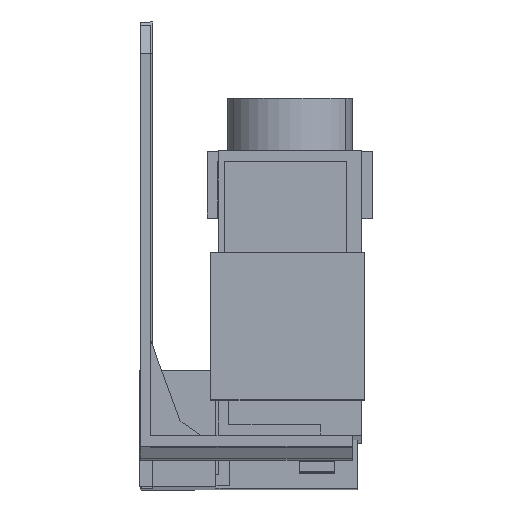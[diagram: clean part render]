
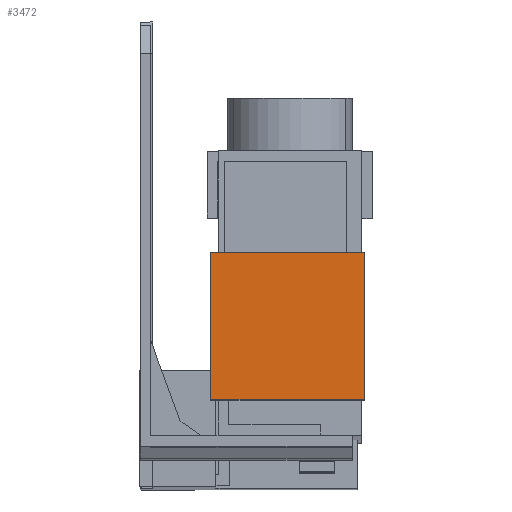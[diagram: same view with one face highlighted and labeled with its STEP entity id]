
A CAD part, front view. The second image highlights one B-rep face of the part: STEP entity #3472.
In plain terms, the highlighted planar face has unit normal (0, -1, 0.003).
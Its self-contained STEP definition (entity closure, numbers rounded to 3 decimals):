
#96 = CARTESIAN_POINT ( 'NONE',  ( 31.95, -31.509, -40.315 ) ) ;
#302 = CARTESIAN_POINT ( 'NONE',  ( 31.95, -31.452, -19.316 ) ) ;
#311 = CARTESIAN_POINT ( 'NONE',  ( 10.05, -31.509, -40.315 ) ) ;
#596 = CARTESIAN_POINT ( 'NONE',  ( 10.05, -31.509, -40.315 ) ) ;
#597 = DIRECTION ( 'NONE',  ( 0., 0.003, 1. ) ) ;
#685 = CARTESIAN_POINT ( 'NONE',  ( 10.05, -31.452, -19.316 ) ) ;
#1297 = ORIENTED_EDGE ( 'NONE', *, *, #8344, .F. ) ;
#1299 = ORIENTED_EDGE ( 'NONE', *, *, #8143, .T. ) ;
#1301 = ORIENTED_EDGE ( 'NONE', *, *, #2641, .F. ) ;
#1303 = ORIENTED_EDGE ( 'NONE', *, *, #8124, .F. ) ;
#1571 = EDGE_LOOP ( 'NONE', ( #1303, #1301, #1299, #1297 ) ) ;
#2499 = AXIS2_PLACEMENT_3D ( 'NONE', #6429, #6435, #6436 ) ;
#2641 = EDGE_CURVE ( 'NONE', #3161, #3140, #5168, .T. ) ;
#3140 = VERTEX_POINT ( 'NONE', #685 ) ;
#3152 = VERTEX_POINT ( 'NONE', #302 ) ;
#3161 = VERTEX_POINT ( 'NONE', #311 ) ;
#3163 = VERTEX_POINT ( 'NONE', #96 ) ;
#3472 = ADVANCED_FACE ( 'NONE', ( #5535 ), #6426, .T. ) ;
#5168 = LINE ( 'NONE', #596, #5169 ) ;
#5169 = VECTOR ( 'NONE', #597, 1000. ) ;
#5535 = FACE_OUTER_BOUND ( 'NONE', #1571, .T. ) ;
#5830 = LINE ( 'NONE', #6977, #5831 ) ;
#5831 = VECTOR ( 'NONE', #6978, 1000. ) ;
#5865 = LINE ( 'NONE', #7017, #5866 ) ;
#5866 = VECTOR ( 'NONE', #7018, 1000. ) ;
#6426 = PLANE ( 'NONE',  #2499 ) ;
#6429 = CARTESIAN_POINT ( 'NONE',  ( 9.3, -31.509, -40.315 ) ) ;
#6435 = DIRECTION ( 'NONE',  ( 0., -1., 0.003 ) ) ;
#6436 = DIRECTION ( 'NONE',  ( -1., 0., 0. ) ) ;
#6977 = CARTESIAN_POINT ( 'NONE',  ( 9.3, -31.452, -19.316 ) ) ;
#6978 = DIRECTION ( 'NONE',  ( 1., 0., 0. ) ) ;
#7017 = CARTESIAN_POINT ( 'NONE',  ( 9.3, -31.509, -40.315 ) ) ;
#7018 = DIRECTION ( 'NONE',  ( 1., 0., 0. ) ) ;
#7446 = CARTESIAN_POINT ( 'NONE',  ( 31.95, -31.452, -19.316 ) ) ;
#7464 = DIRECTION ( 'NONE',  ( 0., -0.003, -1. ) ) ;
#7793 = LINE ( 'NONE', #7446, #7823 ) ;
#7823 = VECTOR ( 'NONE', #7464, 1000. ) ;
#8124 = EDGE_CURVE ( 'NONE', #3140, #3152, #5830, .T. ) ;
#8143 = EDGE_CURVE ( 'NONE', #3161, #3163, #5865, .T. ) ;
#8344 = EDGE_CURVE ( 'NONE', #3152, #3163, #7793, .T. ) ;
